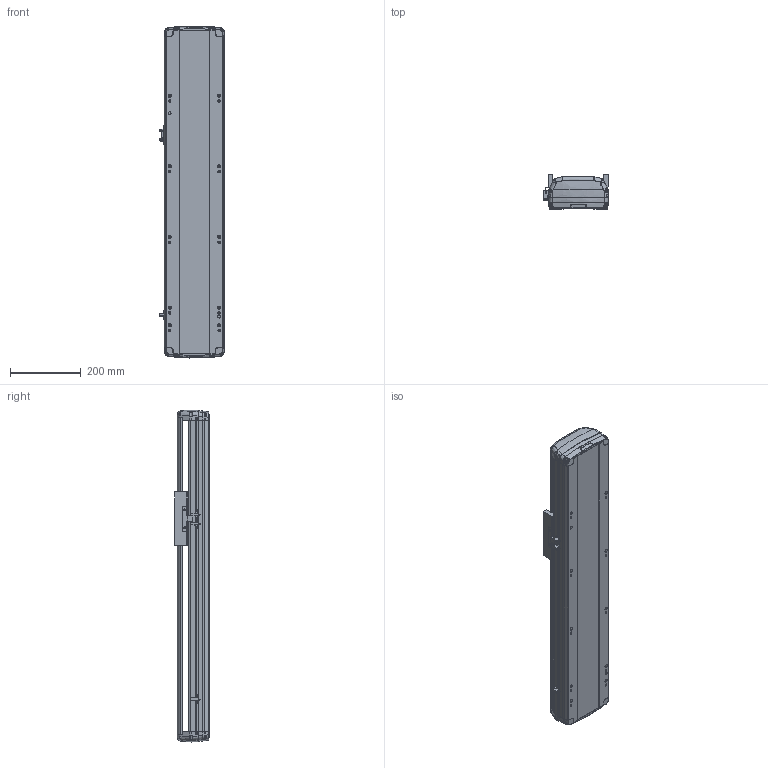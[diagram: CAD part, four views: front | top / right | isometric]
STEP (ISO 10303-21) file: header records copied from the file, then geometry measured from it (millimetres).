
FILE_DESCRIPTION (( 'STEP AP214' ), '1' );
FILE_NAME ('RTH17-XX-500-B-M40B-C4.STEP', '2025-10-24T09:14:59', ( '' ), ( '' ), 'SwSTEP 2.0', 'SolidWorks 2018', '' );
FILE_SCHEMA (( 'AUTOMOTIVE_DESIGN' ));
Length unit declared in the file: millimetre
Products named in the file (7): N_RTH17-M-011B底座^RTH17-XX-XX-B-M40B-C4（方程式）; N_RTH17-GY-001P^RTH17-XX-XX-B-M40B-C4（方程式）; RTH17-XX-500-B-M40B-C4; N_RTH-L-012 感应片(外置)^RTH17-XX-XX-B-M40B-C4（方程式）; N_RTH17-M-007B上盖^RTH17-XX-XX-B-M40B-C4（方程式）; N_OMRON EE-SX672 換覜ん^RTH17-XX-XX-B-M40B-C4ㄗ源最宒ㄘ; N_RTH17-E-004丝杆螺母连接座^RTH17-XX-XX-B-M40B-C4（方程式）
Assembly tree (9 placements, depth 2):
  RTH17-XX-500-B-M40B-C4
    N_RTH17-M-011B底座^RTH17-XX-XX-B-M40B-C4（方程式）
    N_RTH17-M-007B上盖^RTH17-XX-XX-B-M40B-C4（方程式）
    N_OMRON EE-SX672 換覜ん^RTH17-XX-XX-B-M40B-C4ㄗ源最宒ㄘ  x3
    N_RTH-L-012 感应片(外置)^RTH17-XX-XX-B-M40B-C4（方程式）
    N_RTH17-E-004丝杆螺母连接座^RTH17-XX-XX-B-M40B-C4（方程式）
    N_RTH17-GY-001P^RTH17-XX-XX-B-M40B-C4（方程式）  x2
Bounding box: 183.5 x 97 x 939.88 mm (x, y, z)
Volume: 7001653.4 mm3; surface area: 998791.9 mm2
Topology: 7 solids, 11 shells, 1720 faces, 4826 edges, 3134 vertices
Faces by surface type: plane 809, cylinder 445, bspline 420, cone 28, torus 18
Entity records: 40278 total; most frequent: CARTESIAN_POINT 16789, ORIENTED_EDGE 5156, DIRECTION 4066, EDGE_CURVE 2582, VERTEX_POINT 1688, VECTOR 1418, LINE 1418, AXIS2_PLACEMENT_3D 1324
